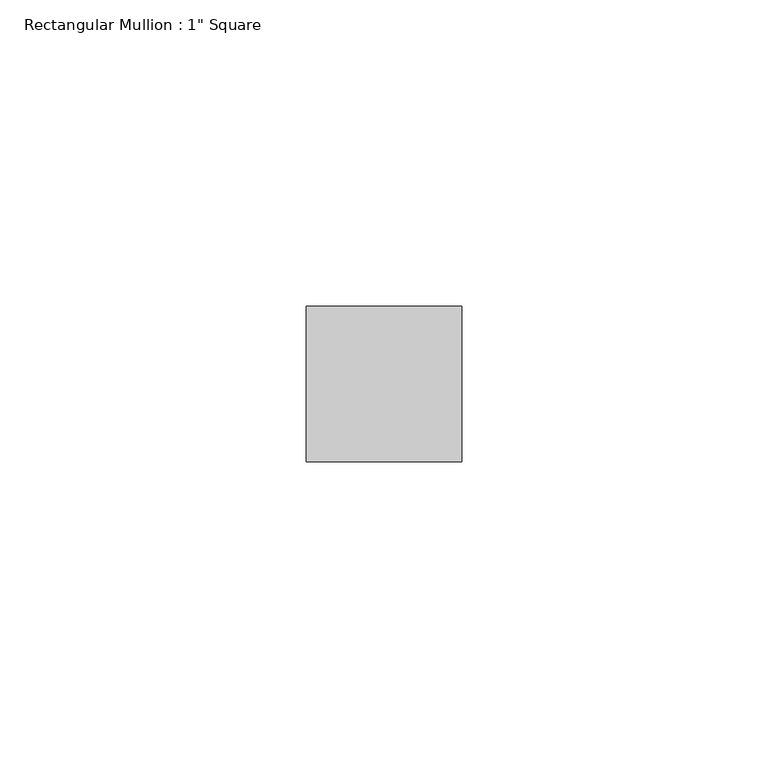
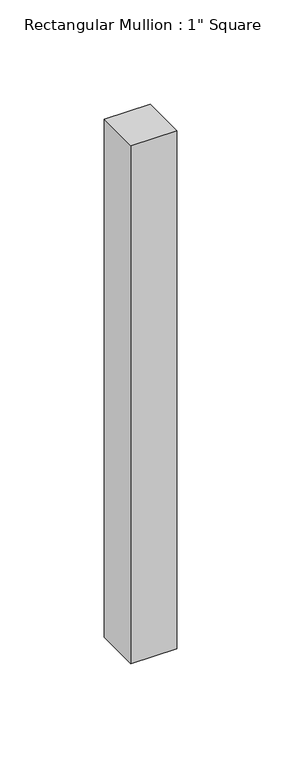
"""IFC4 building model written with IfcOpenShell, lengths in millimetres: member geometry."""

from ifc_helpers import new_model, si_unit, frame, origin, place, context, project, spatial, polyline, outline, extrude, source, transform, mapped, element, save


def member_b7d01548(model_context):
    return source(origin(), model_context, "Body", "SweptSolid", [
        extrude(outline(polyline([(12.7, 12.7), (12.7, -12.7), (-12.7, -12.7), (-12.7, 12.7), (12.7, 12.7)])), frame((0.0, 0.0, -303.1927079), z_axis=(0.0, 0.0, 1.0), x_axis=(1.0, 0.0, 0.0)), (0.0, 0.0, 1.0), 303.1927079),
    ])


if __name__ == "__main__":
    model = new_model("IFC4")
    model_context = context("Model", 3, world=origin())
    ifc_project = project(units=[si_unit("LENGTHUNIT", "METRE", prefix="MILLI")], contexts=[model_context])
    site = spatial("IfcSite", under=ifc_project)
    building = spatial("IfcBuilding", under=site)
    placement = place(None, origin())
    member_shape = member_b7d01548(model_context)
    element("IfcMember", 1, ObjectType="Rectangular Mullion : 1\" Square", at=placement, inside=building, context=model_context, shape_type="MappedRepresentation", body=[
        mapped(member_shape, transform((0.0, 0.0, 0.0), x_axis=(1.0, 0.0, 0.0), y_axis=(0.0, 1.0, 0.0), z_axis=(0.0, 0.0, 1.0))),
    ])
    save(model, "model.ifc")
